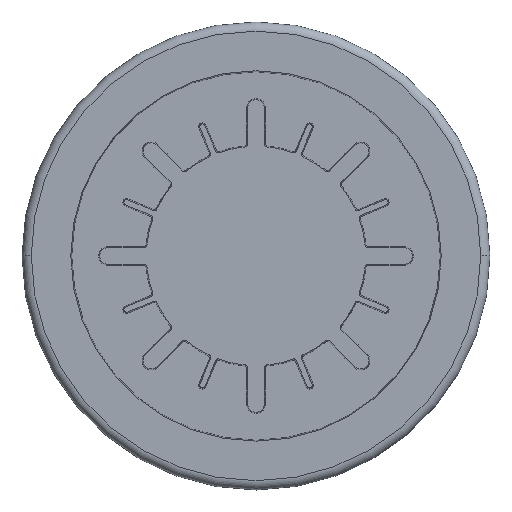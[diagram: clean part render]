
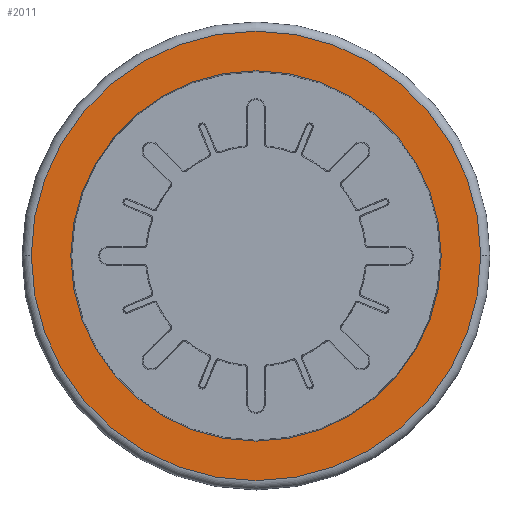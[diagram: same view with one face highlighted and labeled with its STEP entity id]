
A CAD part, top view. The second image highlights one B-rep face of the part: STEP entity #2011.
In plain terms, the highlighted planar face has unit normal (0, 0, 1).
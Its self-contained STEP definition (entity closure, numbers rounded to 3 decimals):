
#468=CARTESIAN_POINT('',(0.,0.,1.5));
#469=DIRECTION('',(0.,0.,-1.));
#470=DIRECTION('',(1.,0.,0.));
#471=AXIS2_PLACEMENT_3D('',#468,#469,#470);
#473=CARTESIAN_POINT('',(0.,0.,1.5));
#474=DIRECTION('',(0.,0.,-1.));
#475=DIRECTION('',(-1.,0.,0.));
#476=AXIS2_PLACEMENT_3D('',#473,#474,#475);
#478=CARTESIAN_POINT('',(0.,0.,1.5));
#479=DIRECTION('',(0.,0.,1.));
#480=DIRECTION('',(-1.,0.,0.));
#481=AXIS2_PLACEMENT_3D('',#478,#479,#480);
#483=CARTESIAN_POINT('',(0.,0.,1.5));
#484=DIRECTION('',(0.,0.,1.));
#485=DIRECTION('',(1.,0.,0.));
#486=AXIS2_PLACEMENT_3D('',#483,#484,#485);
#1362=CARTESIAN_POINT('',(-12.2,0.,1.5));
#1363=CARTESIAN_POINT('',(12.2,0.,1.5));
#1364=VERTEX_POINT('',#1362);
#1365=VERTEX_POINT('',#1363);
#1370=CARTESIAN_POINT('',(10.052,0.,1.5));
#1371=CARTESIAN_POINT('',(-10.052,0.,1.5));
#1372=VERTEX_POINT('',#1370);
#1373=VERTEX_POINT('',#1371);
#1996=CARTESIAN_POINT('',(0.,0.,1.5));
#1997=DIRECTION('',(0.,0.,1.));
#1998=DIRECTION('',(1.,0.,0.));
#1999=AXIS2_PLACEMENT_3D('',#1996,#1997,#1998);
#2000=PLANE('',#1999);
#2002=ORIENTED_EDGE('',*,*,#2001,.F.);
#2004=ORIENTED_EDGE('',*,*,#2003,.F.);
#2005=EDGE_LOOP('',(#2002,#2004));
#2006=FACE_OUTER_BOUND('',#2005,.F.);
#2007=ORIENTED_EDGE('',*,*,#1976,.F.);
#2008=ORIENTED_EDGE('',*,*,#1990,.F.);
#2009=EDGE_LOOP('',(#2007,#2008));
#2010=FACE_BOUND('',#2009,.F.);
#2011=ADVANCED_FACE('',(#2006,#2010),#2000,.T.);
#472=CIRCLE('',#471,10.052);
#477=CIRCLE('',#476,10.052);
#482=CIRCLE('',#481,12.2);
#487=CIRCLE('',#486,12.2);
#1976=EDGE_CURVE('',#1372,#1373,#472,.T.);
#1990=EDGE_CURVE('',#1373,#1372,#477,.T.);
#2001=EDGE_CURVE('',#1364,#1365,#482,.T.);
#2003=EDGE_CURVE('',#1365,#1364,#487,.T.);
